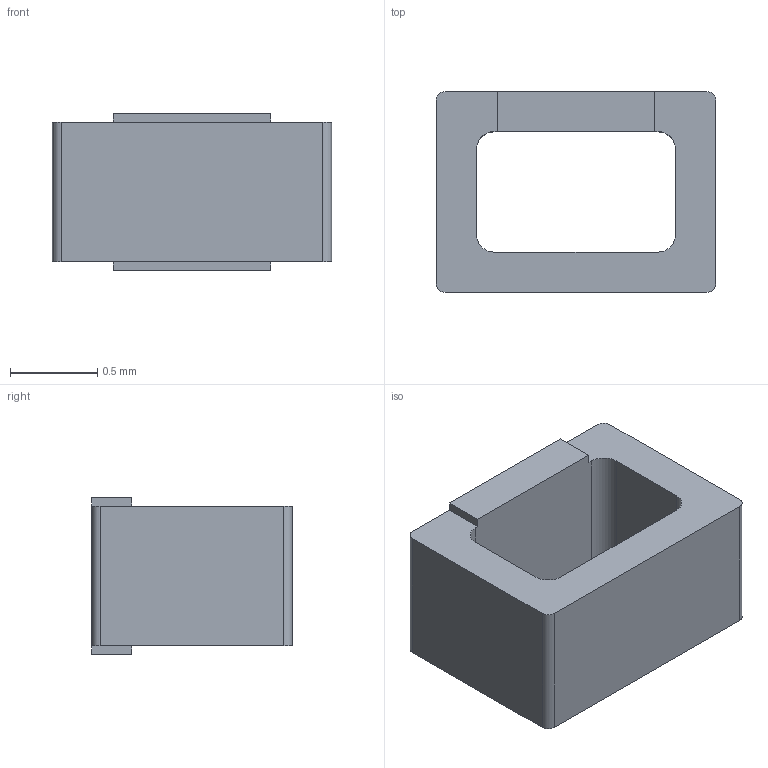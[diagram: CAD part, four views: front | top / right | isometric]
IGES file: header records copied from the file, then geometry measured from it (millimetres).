
Start section:  PTC IGES file: c-1625854-3-ba-3d.igs
Global section: file name: c-1625854-3-ba-3d.igs; native system: Creo Parametric by Parametric Technology Corporation; preprocessor: 2014090; author: workeradm; organization: Unknown; units: millimetre
Bounding box: 1.6 x 1.15 x 0.9 mm (x, y, z)
Surface area: 9.5 mm2 (no closed solid volume)
Topology: 0 solids, 0 shells, 24 faces, 144 edges, 144 vertices
Faces by surface type: bspline 16, revolution 8
